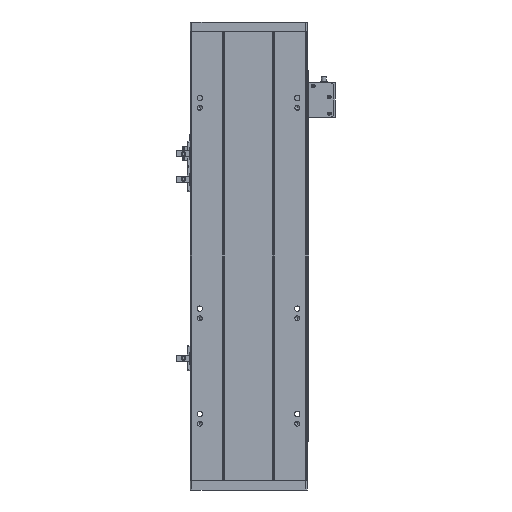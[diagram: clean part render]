
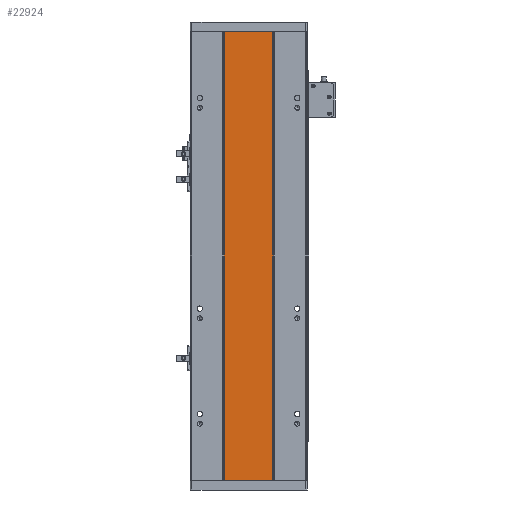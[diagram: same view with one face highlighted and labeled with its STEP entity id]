
A CAD part, front view. The second image highlights one B-rep face of the part: STEP entity #22924.
In plain terms, the highlighted planar face has unit normal (0, -1, 0).
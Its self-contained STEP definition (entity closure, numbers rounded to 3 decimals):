
#283 = CARTESIAN_POINT ( 'NONE',  ( 133.07, 115.96, 460. ) ) ;
#458 = VECTOR ( 'NONE', #7369, 1000. ) ;
#775 = LINE ( 'NONE', #283, #22822 ) ;
#1271 = ORIENTED_EDGE ( 'NONE', *, *, #1647, .T. ) ;
#1647 = EDGE_CURVE ( 'NONE', #6977, #6857, #4793, .T. ) ;
#2357 = EDGE_LOOP ( 'NONE', ( #1271, #7630, #19460, #10720 ) ) ;
#2891 = CARTESIAN_POINT ( 'NONE',  ( 133.07, 115.96, 460. ) ) ;
#3249 = VECTOR ( 'NONE', #6262, 1000. ) ;
#4476 = CARTESIAN_POINT ( 'NONE',  ( 183.063, 115.96, 460. ) ) ;
#4770 = CARTESIAN_POINT ( 'NONE',  ( 0., 115.96, 460. ) ) ;
#4793 = LINE ( 'NONE', #18471, #458 ) ;
#6262 = DIRECTION ( 'NONE',  ( 0., 0., -1. ) ) ;
#6857 = VERTEX_POINT ( 'NONE', #10999 ) ;
#6977 = VERTEX_POINT ( 'NONE', #19104 ) ;
#7369 = DIRECTION ( 'NONE',  ( 1., 0., 0. ) ) ;
#7630 = ORIENTED_EDGE ( 'NONE', *, *, #22362, .F. ) ;
#8165 = LINE ( 'NONE', #4476, #3249 ) ;
#10502 = LINE ( 'NONE', #20841, #18617 ) ;
#10693 = EDGE_CURVE ( 'NONE', #11134, #6977, #775, .T. ) ;
#10720 = ORIENTED_EDGE ( 'NONE', *, *, #10693, .T. ) ;
#10999 = CARTESIAN_POINT ( 'NONE',  ( 183.063, 115.96, 0. ) ) ;
#11047 = AXIS2_PLACEMENT_3D ( 'NONE', #4770, #19834, #12216 ) ;
#11134 = VERTEX_POINT ( 'NONE', #2891 ) ;
#12133 = PLANE ( 'NONE',  #11047 ) ;
#12185 = VERTEX_POINT ( 'NONE', #18968 ) ;
#12216 = DIRECTION ( 'NONE',  ( -1., 0., 0. ) ) ;
#15317 = DIRECTION ( 'NONE',  ( 1., 0., 0. ) ) ;
#18471 = CARTESIAN_POINT ( 'NONE',  ( 0., 115.96, 0. ) ) ;
#18617 = VECTOR ( 'NONE', #15317, 1000. ) ;
#18968 = CARTESIAN_POINT ( 'NONE',  ( 183.063, 115.96, 460. ) ) ;
#19104 = CARTESIAN_POINT ( 'NONE',  ( 133.07, 115.96, 0. ) ) ;
#19183 = FACE_OUTER_BOUND ( 'NONE', #2357, .T. ) ;
#19460 = ORIENTED_EDGE ( 'NONE', *, *, #22291, .F. ) ;
#19834 = DIRECTION ( 'NONE',  ( 0., 1., 0. ) ) ;
#20841 = CARTESIAN_POINT ( 'NONE',  ( 0., 115.96, 460. ) ) ;
#22223 = DIRECTION ( 'NONE',  ( 0., 0., -1. ) ) ;
#22291 = EDGE_CURVE ( 'NONE', #11134, #12185, #10502, .T. ) ;
#22362 = EDGE_CURVE ( 'NONE', #12185, #6857, #8165, .T. ) ;
#22822 = VECTOR ( 'NONE', #22223, 1000. ) ;
#22924 = ADVANCED_FACE ( 'NONE', ( #19183 ), #12133, .F. ) ;
